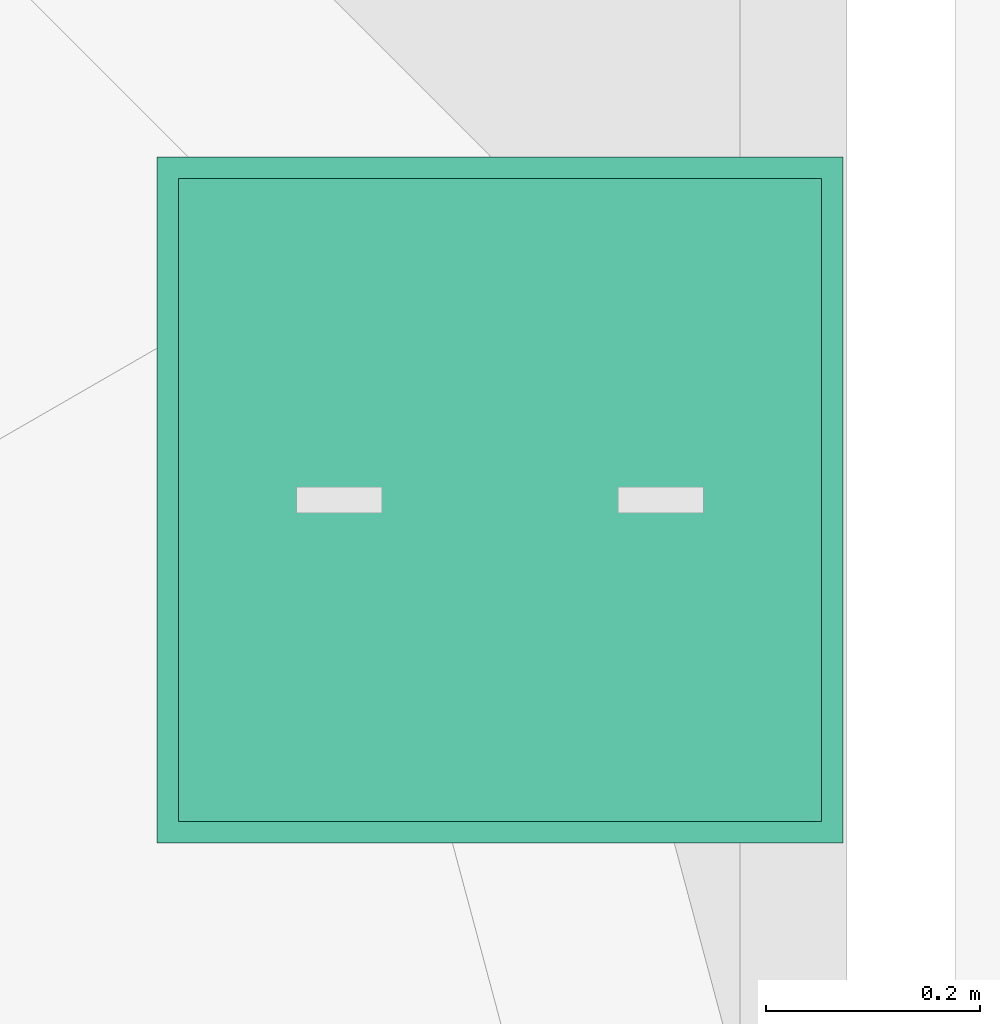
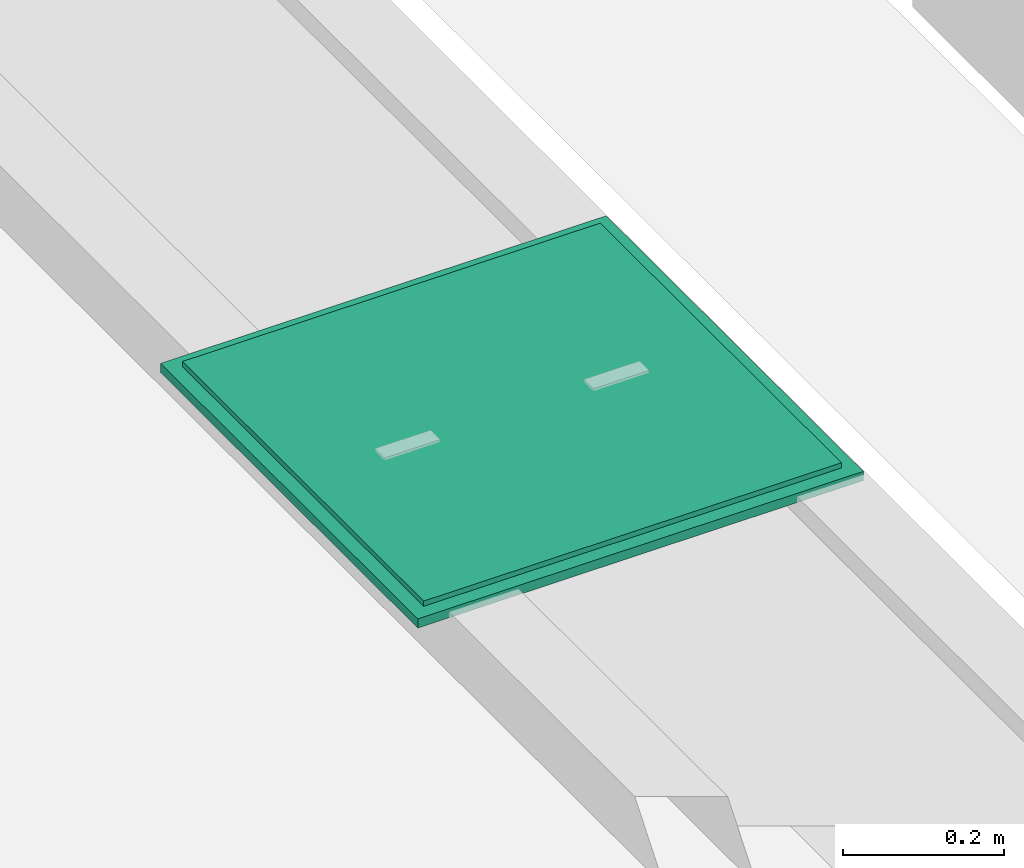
# One storey, part 124 of 177: 2 distribution chamber elements.
"""IFC4 building model written with IfcOpenShell, lengths in metres."""

from ifc_helpers import new_model, si_unit, origin, origin_with_axes, place, context, subcontext, project, spatial, triangles, element, save


model = new_model("IFC4")

# Units and contexts
model_context = context("Model", 3, precision=1e-05, world=origin_with_axes())
body_context = subcontext(model_context, "Body", "Model", "MODEL_VIEW")
ifc_project = project(units=[si_unit("LENGTHUNIT", "METRE"), si_unit("AREAUNIT", "SQUARE_METRE"), si_unit("VOLUMEUNIT", "CUBIC_METRE"), si_unit("PLANEANGLEUNIT", "RADIAN")], contexts=[model_context])

# Site, building, storey
site_placement = place(None, origin_with_axes())
site = spatial("IfcSite", under=ifc_project, at=site_placement, Name="Predio Los Mangos - Morales, San Martín", CompositionType="ELEMENT")
building_placement = place(site_placement, origin())
building = spatial("IfcBuilding", under=site, at=building_placement, Name="Hogar de Refugio Temporal", CompositionType="ELEMENT")
storey_placement = place(building_placement, origin())
storey = spatial("IfcBuildingStorey", under=building, at=storey_placement, Name="NIVEL 1 (NPT +0.00)", CompositionType="ELEMENT", Elevation=0.0)

# Distribution chamber elements
distribution_chamber_element_1_placement = place(storey_placement, origin())
element("IfcDistributionChamberElement", 1, at=distribution_chamber_element_1_placement, inside=storey, Name="tapa_insp_junta", ObjectType="Tapa de inspección", PredefinedType="INSPECTIONCHAMBER", context=body_context, shape_type="Tessellation", body=[
    triangles([(70.355, 20.159, 0.082), (70.995, 20.159, 0.082), (70.995, 20.799, 0.082), (70.355, 20.799, 0.082), (70.355, 20.159, 0.096), (70.995, 20.159, 0.096), (70.995, 20.799, 0.096), (70.355, 20.799, 0.096)], [[1, 4, 3], [1, 3, 2], [5, 6, 7], [5, 7, 8], [1, 2, 6], [1, 6, 5], [2, 3, 7], [2, 7, 6], [3, 4, 8], [3, 8, 7], [4, 1, 5], [4, 5, 8]]),
])
distribution_chamber_element_2_placement = place(storey_placement, origin())
element("IfcDistributionChamberElement", 2, at=distribution_chamber_element_2_placement, inside=storey, Name="tapa_inspeccion", ObjectType="Tapa de inspección", PredefinedType="INSPECTIONCHAMBER", context=body_context, shape_type="Tessellation", body=[
    triangles([(70.375, 20.179, 0.082), (70.975, 20.179, 0.082), (70.975, 20.779, 0.082), (70.375, 20.779, 0.082), (70.375, 20.179, 0.104), (70.975, 20.179, 0.104), (70.975, 20.779, 0.104), (70.375, 20.779, 0.104)], [[1, 4, 3], [1, 3, 2], [5, 6, 7], [5, 7, 8], [1, 2, 6], [1, 6, 5], [2, 3, 7], [2, 7, 6], [3, 4, 8], [3, 8, 7], [4, 1, 5], [4, 5, 8]]),
])

save(model, "model.ifc")
